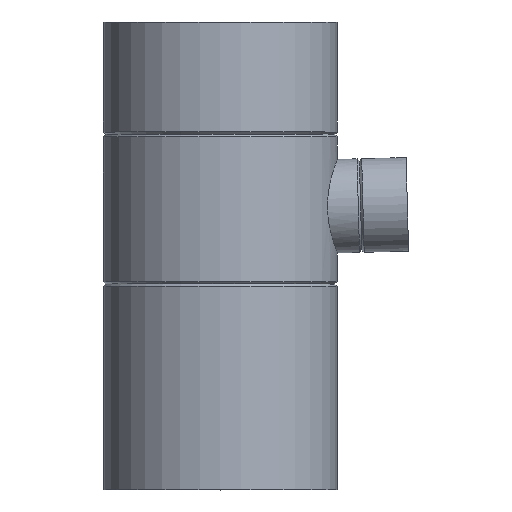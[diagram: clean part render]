
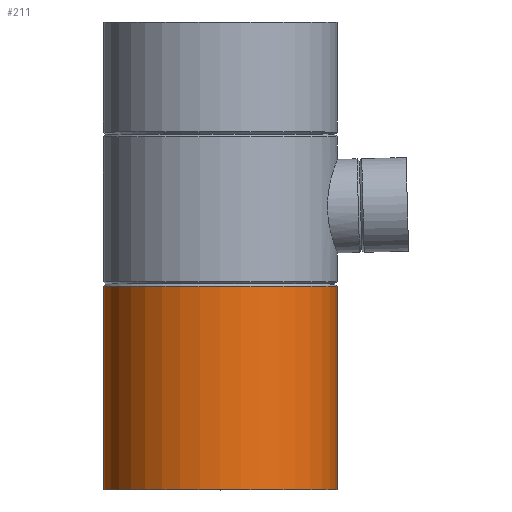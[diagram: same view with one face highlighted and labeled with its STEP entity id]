
A CAD part, top view. The second image highlights one B-rep face of the part: STEP entity #211.
In plain terms, the highlighted cylindrical face has radius 62.5 mm (diameter 125 mm), a full revolution.
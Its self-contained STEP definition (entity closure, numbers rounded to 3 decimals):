
#23=CYLINDRICAL_SURFACE($,#244,62.5);
#41=FACE_BOUND($,#87,.T.);
#57=FACE_OUTER_BOUND($,#86,.T.);
#86=EDGE_LOOP($,(#169));
#87=EDGE_LOOP($,(#170));
#100=CIRCLE($,#232,62.5);
#106=CIRCLE($,#245,62.5);
#116=VERTEX_POINT($,#403);
#123=VERTEX_POINT($,#489);
#133=EDGE_CURVE($,#116,#116,#100,.T.);
#140=EDGE_CURVE($,#123,#123,#106,.T.);
#169=ORIENTED_EDGE($,*,*,#133,.T.);
#170=ORIENTED_EDGE($,*,*,#140,.F.);
#211=ADVANCED_FACE($,(#57,#41),#23,.T.);
#232=AXIS2_PLACEMENT_3D($,#404,#280,#281);
#244=AXIS2_PLACEMENT_3D($,#488,#304,#305);
#245=AXIS2_PLACEMENT_3D($,#490,#306,#307);
#280=DIRECTION('center_axis',(0.,-1.,0.));
#281=DIRECTION('ref_axis',(1.,0.,0.));
#304=DIRECTION('center_axis',(0.,1.,0.));
#305=DIRECTION('ref_axis',(1.,0.,0.));
#306=DIRECTION('center_axis',(0.,-1.,0.));
#307=DIRECTION('ref_axis',(1.,0.,0.));
#403=CARTESIAN_POINT('',(-62.5,108.75,0.));
#404=CARTESIAN_POINT('Origin',(0.,108.75,0.));
#488=CARTESIAN_POINT('Origin',(0.,0.,0.));
#489=CARTESIAN_POINT('',(-62.5,0.,0.));
#490=CARTESIAN_POINT('Origin',(0.,0.,0.));
